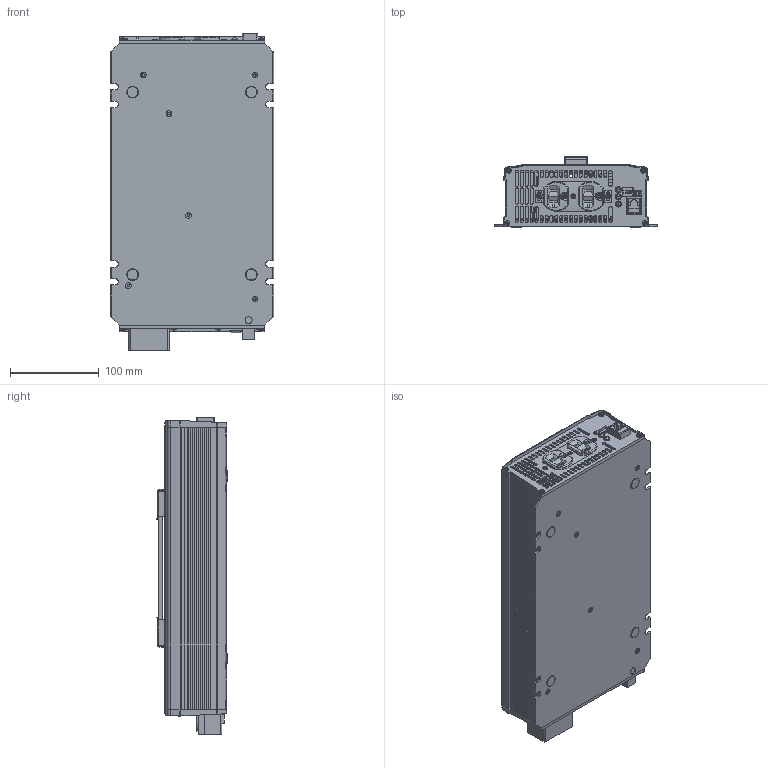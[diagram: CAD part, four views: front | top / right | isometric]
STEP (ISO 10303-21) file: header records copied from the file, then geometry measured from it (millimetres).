
FILE_DESCRIPTION(('Creo Elements/Direct Modeling STEP Export'),'2;1');
FILE_NAME('NTS-1200US.stp','2021-07-01T14:48:40',(''),(''),'PTC Creo Elements/Direct Modeling STEP processor for AP214 (Solid Model)','PTC Creo Elements/Direct Modeling 19.0A 04-Oct-2014 (C) Parametric Technology GmbH','');
FILE_SCHEMA(('AUTOMOTIVE_DESIGN { 1 0 10303 214 1 1 1 1 }'));
Length unit declared in the file: millimetre
Products named in the file (134): 1xx3NTS-1200US-O; 19-30286-1312__w__.1.1.1.1; 19-30286-1312__w__.1.1.1; 19-30286-1312__w__.1; 19-30286-1312__w__.1.1; 19-30286-1312__w__.1.2; 19-30286-1312__w__.1.2.1; 19-30286-1312__w__.1.2.1.1; 装配2; 螺丝; 1xx3NTU-1200-I; PCBB; PCBA; PCBC; PCB; PCB-D; 9727R_PCB_ASM_ASM_ASM_16_ASM_1_.ASM; STANDARD_ASM_ASM_ASM_16_ASM_1_A.ASM; 拨码开关; E_1_PRT_16_1_1_5.PRT; E_PRT_16_1_1_5.PRT; LED_1_PRT_2_1_1_1_1_1_1_PRT_16_.PRT.7; P1.PRT; PHONE_JACK_1.PRT; 9727R_PCB.ASM; STANDARD.ASM; 9727R_PHII.ASM; DP1; 小卡装配; MOS15_5X10_1_1_1_1_1_1_1_1_1_2_.PRT.27; P3; MOSTO3P_1_1_PRT_16_1_1_5.PRT.41; MOSTO3P_1_1_PRT_16_1_1_5.PRT.40; T_7.PRT; MOSTO3P_1_1_PRT_16_1_1_5.PRT.42; 22; 33; AL_1_PRT_16_1_1_5.PRT.5; EE_2_PRT_16_1_1_5.PRT.22; ON-OFF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
Assembly tree (156 placements, depth 9):
  NTS-1200US.stp
    NTU-1200
      E-07-A2.美规带耳朵
        E-07-A2_1.ASM
          E09-002C-27468.ASM
            1.PRT  x2
            E09-011.PRT  x2
            E09-002C-12095.PRT
            E06-008B.PRT
          E09A.PRT
          E09-003.PRT
          E09-008-27547.ASM.9  x4
            E09-008_008A.PRT
            E09-008-12243.PRT
          E09C.PRT
      装配1
        螺丝.1
          装配2
            19-30286-1312__w__.1.2.1.1.1
            19-30286-1312__w__.1.2.1.1
            19-30286-1312__w__.1.2.1
            19-30286-1312__w__.1.2
            19-30286-1312__w__.1.1
            19-30286-1312__w__.1
            19-30286-1312__w__.1.1.1
            19-30286-1312__w__.1.1.1.1
        1GG
          YS031W-074.1
          YS031W-074
          HS-SZ901
          CU-177-1  x2
          HS-659
            HS3_1_ASM_5.ASM
              HS3_5.PRT
              PIN_1_5.PRT
          HS-660
          33_PRT_16_1_1_5.PRT.38  x2
          HS-272B
        1HH
          1HH2NTU-1200A.1
          130x65
          THERMAL_PAD-2_5.PRT
          THERMAL_PAD-1_8.PRT
          SI_PRT_16_1_1_5.PRT
          SILICONE_PAD_5.PRT
          MYLAR_PRT_16_1_1_5.PRT
          MYLAR-2_5.PRT
          1HH2NTU-120019
        CASE
          六角間隔柱
          六角間隔柱.1
          PAD
            FOOT_PAD_7_1.PRT.30
            FOOT_PAD_7_1.PRT.31
            FOOT_PAD_7_1.PRT
            FOOT_PAD_7_1.PRT.29
          固纬把手
            174
            guwei1
            guwei1.1
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Bounding box: 184 x 79.45 x 357.3 mm (x, y, z)
Volume: 979588.6 mm3; surface area: 889220.7 mm2
Topology: 115 solids, 115 shells, 4573 faces, 11963 edges, 7785 vertices
Faces by surface type: plane 2853, cylinder 1124, cone 369, bspline 92, torus 70, sphere 64, extrusion 1
Entity records: 134517 total; most frequent: CARTESIAN_POINT 27905, ORIENTED_EDGE 20406, DIRECTION 19154, EDGE_CURVE 10189, VECTOR 6948, LINE 6947, VERTEX_POINT 6662, AXIS2_PLACEMENT_3D 6103
